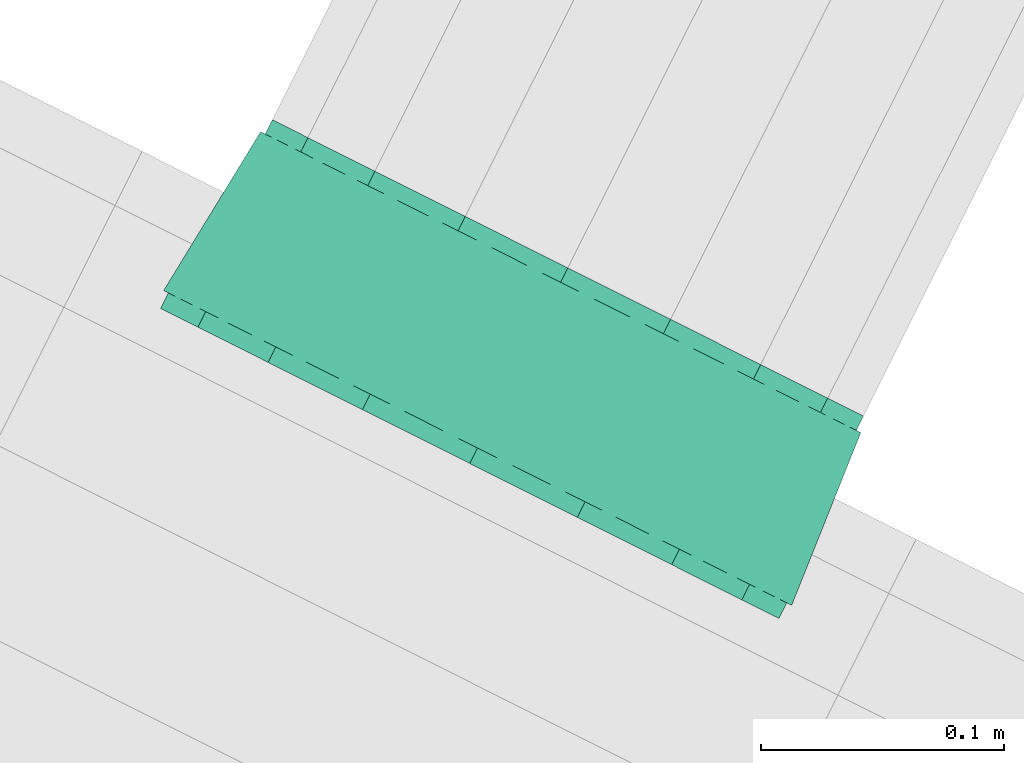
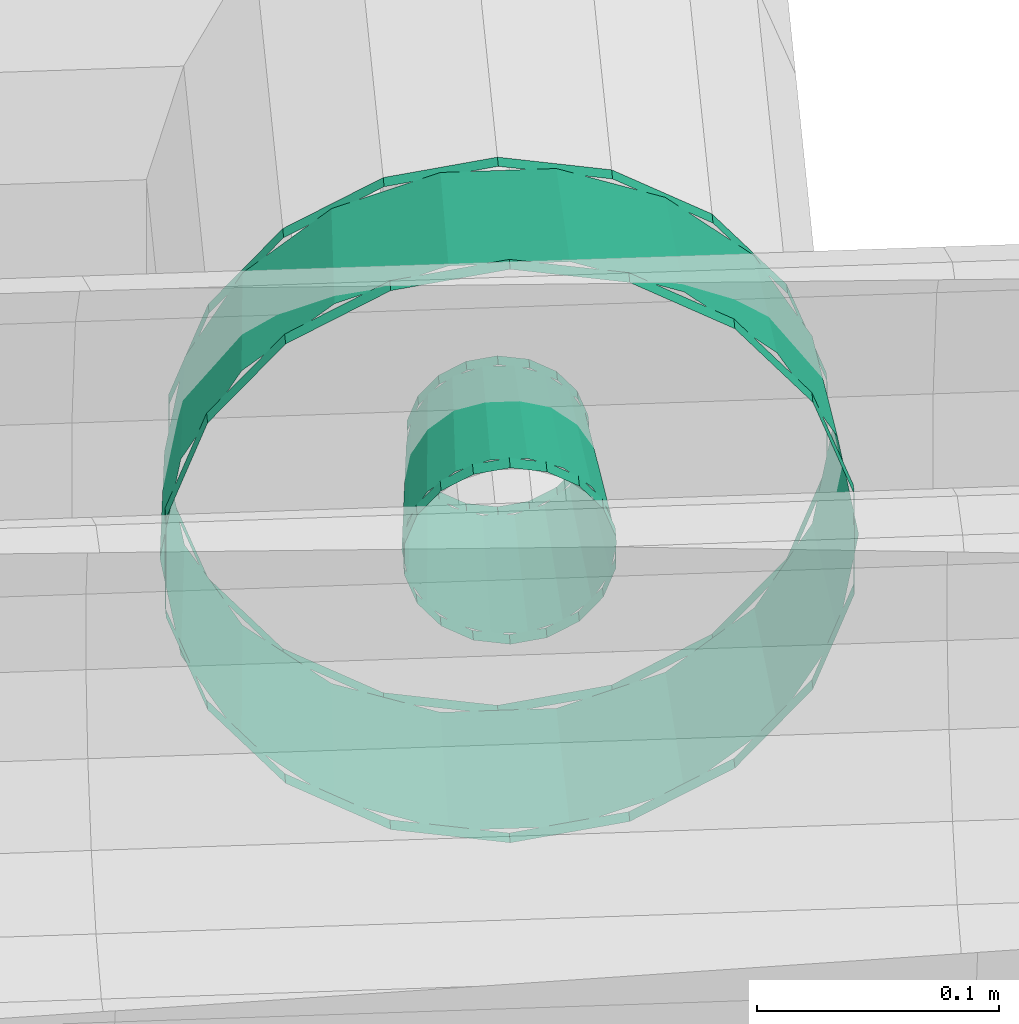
# One storey, part 25 of 152: 1 flow fitting.
"""IFC2X3 building model written with IfcOpenShell, lengths in metres."""

from ifc_helpers import new_model, si_unit, derived_unit, direction, frame, origin, place, context, subcontext, project, spatial, face_set, surface_model, source, transform, mapped, material, type_object, type_shapes, element, save


model = new_model("IFC2X3")

# Units and contexts
model_context = context("Model", 3, precision=5.2338327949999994e-05, world=origin(), true_north=direction((0.0, 1.0)))
body_context = subcontext(model_context, "Body", "Model", "MODEL_VIEW")
ifc_project = project(units=[si_unit("LENGTHUNIT", "METRE"), si_unit("AREAUNIT", "SQUARE_METRE"), si_unit("VOLUMEUNIT", "CUBIC_METRE"), si_unit("MASSUNIT", "GRAM", prefix="KILO"), si_unit("PLANEANGLEUNIT", "RADIAN"), derived_unit("THERMALTRANSMITTANCEUNIT", [(si_unit("MASSUNIT", "GRAM", prefix="KILO"), 1), (si_unit("THERMODYNAMICTEMPERATUREUNIT", "KELVIN"), -1), (si_unit("TIMEUNIT", "SECOND"), -3)])], contexts=[model_context])

# Site, building, storey
site_placement = place(None, frame((0.0, 0.0, 0.0), z_axis=(0.0, 0.0, 1.0), x_axis=(0.8939966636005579, -0.4480736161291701, 0.0)))
site = spatial("IfcSite", under=ifc_project, at=site_placement, Name="Default", CompositionType="ELEMENT")
building_placement = place(site_placement, origin())
building = spatial("IfcBuilding", under=site, at=building_placement, CompositionType="ELEMENT")
storey_placement = place(building_placement, frame((0.0, 0.0, 2.7499999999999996)))
storey = spatial("IfcBuildingStorey", under=building, at=storey_placement, Name="1. Obergeschoss", CompositionType="ELEMENT", Elevation=2.7499999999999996)

# Flow fitting
ifc_material = material(Name="IfcSurfaceStyle #9317")
distribution_element_type = type_object("IfcDistributionElementType", Name="Übergangsstück 260035:Übergangsstück 260035", material=ifc_material)
shared_shape = source(origin(), body_context, "Body", "SurfaceModel", [
    surface_model("IfcFaceBasedSurfaceModel", [(15.057242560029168, 6.008787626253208, 5.680090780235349), (15.072445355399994, 6.008787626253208, 5.677410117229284), (15.072445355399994, 6.0159372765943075, 5.677410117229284), (15.057242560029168, 6.0159372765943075, 5.680090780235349), (15.085814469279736, 6.008787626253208, 5.669691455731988), (15.085814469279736, 6.0159372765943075, 5.669691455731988), (15.095737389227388, 6.008787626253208, 5.65786578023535), (15.095737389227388, 6.0159372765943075, 5.65786578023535), (15.101017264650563, 6.008787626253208, 5.643359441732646), (15.101017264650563, 6.0159372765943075, 5.643359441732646), (15.101017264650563, 6.008787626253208, 5.627922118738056), (15.101017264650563, 6.0159372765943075, 5.627922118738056), (15.095737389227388, 6.008787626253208, 5.61341578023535), (15.095737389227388, 6.0159372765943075, 5.61341578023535), (15.085814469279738, 6.008787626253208, 5.601590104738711), (15.085814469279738, 6.0159372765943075, 5.601590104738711), (15.072445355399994, 6.008787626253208, 5.593871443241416), (15.072445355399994, 6.0159372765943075, 5.593871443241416), (15.057242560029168, 6.008787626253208, 5.59119078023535), (15.057242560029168, 6.0159372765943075, 5.59119078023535), (15.042039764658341, 6.008787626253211, 5.593871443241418), (15.042039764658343, 6.015937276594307, 5.593871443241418), (15.028670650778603, 6.008787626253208, 5.601590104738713), (15.028670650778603, 6.015937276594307, 5.601590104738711), (15.018747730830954, 6.008787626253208, 5.613415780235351), (15.018747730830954, 6.0159372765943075, 5.613415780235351), (15.013467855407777, 6.008787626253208, 5.627922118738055), (15.013467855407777, 6.0159372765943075, 5.627922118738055), (15.013467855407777, 6.008787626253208, 5.643359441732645), (15.013467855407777, 6.0159372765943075, 5.643359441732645), (15.018747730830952, 6.008787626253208, 5.657865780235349), (15.018747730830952, 6.0159372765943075, 5.657865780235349), (15.028670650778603, 6.008787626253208, 5.669691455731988), (15.028670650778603, 6.0159372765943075, 5.669691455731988), (15.042039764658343, 6.008787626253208, 5.677410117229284), (15.042039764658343, 6.0159372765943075, 5.677410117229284), (15.057242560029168, 6.008787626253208, 5.7800907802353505), (15.106647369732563, 6.008787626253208, 5.771379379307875), (15.106647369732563, 6.0159372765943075, 5.771379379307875), (15.057242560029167, 6.0159372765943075, 5.7800907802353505), (15.150093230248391, 6.008787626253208, 5.746295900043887), (15.150093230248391, 6.0159372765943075, 5.746295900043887), (15.182339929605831, 6.008787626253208, 5.707865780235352), (15.182339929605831, 6.0159372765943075, 5.707865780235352), (15.199498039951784, 6.008787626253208, 5.6607242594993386), (15.199498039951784, 6.0159372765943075, 5.6607242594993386), (15.199498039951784, 6.008787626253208, 5.610557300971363), (15.199498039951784, 6.0159372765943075, 5.610557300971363), (15.182339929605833, 6.008787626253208, 5.563415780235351), (15.182339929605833, 6.0159372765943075, 5.563415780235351), (15.150093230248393, 6.008787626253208, 5.524985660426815), (15.150093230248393, 6.0159372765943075, 5.524985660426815), (15.106647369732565, 6.008787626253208, 5.4999021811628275), (15.106647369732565, 6.0159372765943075, 5.4999021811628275), (15.057242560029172, 6.008787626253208, 5.491190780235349), (15.057242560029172, 6.0159372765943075, 5.491190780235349), (15.00783775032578, 6.008787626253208, 5.499902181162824), (15.00783775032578, 6.0159372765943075, 5.499902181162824), (14.96439188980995, 6.008787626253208, 5.524985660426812), (14.96439188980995, 6.0159372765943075, 5.524985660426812), (14.932145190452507, 6.008787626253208, 5.5634157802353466), (14.932145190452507, 6.0159372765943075, 5.5634157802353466), (14.914987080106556, 6.008787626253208, 5.61055730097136), (14.914987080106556, 6.0159372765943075, 5.61055730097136), (14.914987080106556, 6.008787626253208, 5.660724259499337), (14.914987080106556, 6.0159372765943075, 5.660724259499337), (14.932145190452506, 6.008787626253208, 5.70786578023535), (14.932145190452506, 6.0159372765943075, 5.70786578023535), (14.964391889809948, 6.008787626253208, 5.746295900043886), (14.964391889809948, 6.0159372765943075, 5.746295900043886), (15.007837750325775, 6.008787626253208, 5.771379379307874), (15.007837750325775, 6.0159372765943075, 5.771379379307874), (15.101692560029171, 6.0159372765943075, 5.63564078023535), (15.099011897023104, 6.0159372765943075, 5.620437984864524), (15.092997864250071, 6.0921726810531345, 5.622626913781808), (15.095292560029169, 6.0921726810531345, 5.635640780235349), (15.091293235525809, 6.0159372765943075, 5.607068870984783), (15.086390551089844, 6.0921726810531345, 5.611182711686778), (15.07946756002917, 6.0159372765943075, 5.597145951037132), (15.076267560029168, 6.0921726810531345, 5.602688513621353), (15.064961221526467, 6.0159372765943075, 5.591866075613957), (15.06384987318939, 6.0921726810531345, 5.598168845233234), (15.049523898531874, 6.0159372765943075, 5.591866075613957), (15.050635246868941, 6.0921726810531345, 5.5981688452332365), (15.03501756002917, 6.0159372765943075, 5.597145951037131), (15.038217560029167, 6.0921726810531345, 5.602688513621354), (15.02319188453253, 6.0159372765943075, 5.60706887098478), (15.028094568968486, 6.0921726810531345, 5.611182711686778), (15.015473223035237, 6.0159372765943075, 5.620437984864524), (15.021487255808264, 6.0921726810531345, 5.6226269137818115), (15.01279256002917, 6.0159372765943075, 5.635640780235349), (15.019192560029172, 6.0921726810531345, 5.635640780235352), (15.015473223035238, 6.0159372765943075, 5.650843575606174), (15.021487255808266, 6.0921726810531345, 5.648654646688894), (15.023191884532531, 6.0159372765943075, 5.664212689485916), (15.028094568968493, 6.0921726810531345, 5.660098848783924), (15.035017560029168, 6.0159372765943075, 5.674135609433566), (15.03821756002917, 6.0921726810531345, 5.668593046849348), (15.049523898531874, 6.0159372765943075, 5.679415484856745), (15.050635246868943, 6.0921726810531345, 5.673112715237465), (15.064961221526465, 6.0159372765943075, 5.679415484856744), (15.063849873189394, 6.0921726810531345, 5.6731127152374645), (15.07946756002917, 6.0159372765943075, 5.674135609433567), (15.076267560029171, 6.0921726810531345, 5.668593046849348), (15.09129323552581, 6.0159372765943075, 5.664212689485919), (15.086390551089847, 6.0921726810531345, 5.660098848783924), (15.0990118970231, 6.0159372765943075, 5.650843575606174), (15.092997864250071, 6.0921726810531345, 5.64865464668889), (15.057242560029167, 6.092172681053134, 5.673690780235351), (15.070256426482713, 6.092172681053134, 5.671396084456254), (15.070256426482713, 6.098787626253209, 5.671396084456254), (15.057242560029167, 6.098787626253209, 5.673690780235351), (15.08170062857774, 6.092172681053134, 5.664788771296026), (15.08170062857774, 6.098787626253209, 5.664788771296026), (15.090194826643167, 6.092172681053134, 5.65466578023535), (15.090194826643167, 6.098787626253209, 5.65466578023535), (15.094714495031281, 6.092172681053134, 5.642248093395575), (15.094714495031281, 6.098787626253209, 5.642248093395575), (15.094714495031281, 6.092172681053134, 5.629033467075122), (15.094714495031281, 6.098787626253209, 5.629033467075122), (15.090194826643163, 6.092172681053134, 5.616615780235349), (15.090194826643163, 6.098787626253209, 5.616615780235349), (15.081700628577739, 6.092172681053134, 5.606492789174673), (15.081700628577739, 6.098787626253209, 5.606492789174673), (15.070256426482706, 6.092172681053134, 5.599885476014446), (15.070256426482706, 6.098787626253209, 5.599885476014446), (15.057242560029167, 6.092172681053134, 5.5975907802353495), (15.057242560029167, 6.098787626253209, 5.5975907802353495), (15.044228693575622, 6.092172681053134, 5.599885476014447), (15.044228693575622, 6.098787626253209, 5.599885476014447), (15.032784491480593, 6.092172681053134, 5.606492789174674), (15.032784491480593, 6.098787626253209, 5.606492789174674), (15.024290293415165, 6.092172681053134, 5.616615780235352), (15.024290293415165, 6.098787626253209, 5.616615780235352), (15.019770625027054, 6.092172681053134, 5.629033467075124), (15.019770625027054, 6.098787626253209, 5.629033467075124), (15.019770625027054, 6.092172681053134, 5.64224809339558), (15.019770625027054, 6.098787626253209, 5.64224809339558), (15.02429029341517, 6.092172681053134, 5.654665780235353), (15.02429029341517, 6.098787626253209, 5.654665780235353), (15.032784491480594, 6.092172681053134, 5.664788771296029), (15.032784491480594, 6.098787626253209, 5.664788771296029), (15.044228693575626, 6.092172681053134, 5.671396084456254), (15.044228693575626, 6.098787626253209, 5.671396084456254), (15.20169256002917, 6.0159372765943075, 5.6356407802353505), (15.192981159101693, 6.0159372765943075, 5.586235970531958), (15.18696712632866, 6.0921726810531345, 5.588424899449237), (15.195292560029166, 6.0921726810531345, 5.635640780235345), (15.16789767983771, 6.0159372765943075, 5.54279011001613), (15.16299499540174, 6.0921726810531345, 5.54690395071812), (15.129467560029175, 6.0159372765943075, 5.510543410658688), (15.126267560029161, 6.0921726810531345, 5.516085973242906), (15.08232603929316, 6.0159372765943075, 5.493385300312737), (15.081214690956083, 6.0921726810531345, 5.499688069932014), (15.032159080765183, 6.0159372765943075, 5.4933853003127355), (15.03327042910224, 6.0921726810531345, 5.499688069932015), (14.985017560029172, 6.0159372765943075, 5.510543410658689), (14.988217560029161, 6.0921726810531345, 5.5160859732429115), (14.946587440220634, 6.0159372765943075, 5.542790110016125), (14.951490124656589, 6.0921726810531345, 5.546903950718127), (14.921503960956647, 6.0159372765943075, 5.586235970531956), (14.927517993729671, 6.0921726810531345, 5.588424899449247), (14.912792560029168, 6.0159372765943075, 5.635640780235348), (14.919192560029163, 6.0921726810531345, 5.635640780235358), (14.921503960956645, 6.0159372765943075, 5.685045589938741), (14.927517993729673, 6.0921726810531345, 5.682856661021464), (14.94658744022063, 6.0159372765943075, 5.728491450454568), (14.951490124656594, 6.0921726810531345, 5.724377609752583), (14.985017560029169, 6.0159372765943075, 5.7607381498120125), (14.988217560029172, 6.0921726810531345, 5.755195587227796), (15.032159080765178, 6.0159372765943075, 5.777896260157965), (15.03327042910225, 6.0921726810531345, 5.771593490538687), (15.082326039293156, 6.0159372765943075, 5.777896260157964), (15.081214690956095, 6.0921726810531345, 5.7715934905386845), (15.129467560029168, 6.0159372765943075, 5.760738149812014), (15.126267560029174, 6.0921726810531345, 5.755195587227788), (15.167897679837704, 6.0159372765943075, 5.728491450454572), (15.162994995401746, 6.0921726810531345, 5.724377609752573), (15.192981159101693, 6.0159372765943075, 5.685045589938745), (15.186967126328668, 6.0921726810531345, 5.682856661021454), (15.057242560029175, 6.092172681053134, 5.773690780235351), (15.10445844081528, 6.092172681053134, 5.7653653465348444), (15.10445844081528, 6.098787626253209, 5.7653653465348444), (15.057242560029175, 6.098787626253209, 5.773690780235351), (15.145979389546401, 6.092172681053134, 5.741393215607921), (15.145979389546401, 6.098787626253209, 5.741393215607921), (15.176797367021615, 6.092172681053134, 5.704665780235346), (15.176797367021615, 6.098787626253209, 5.704665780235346), (15.193195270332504, 6.092172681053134, 5.659612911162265), (15.193195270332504, 6.098787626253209, 5.659612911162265), (15.1931952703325, 6.092172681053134, 5.611668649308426), (15.1931952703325, 6.098787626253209, 5.611668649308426), (15.176797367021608, 6.092172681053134, 5.566615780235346), (15.176797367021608, 6.098787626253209, 5.566615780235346), (15.14597938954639, 6.092172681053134, 5.529888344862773), (15.14597938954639, 6.098787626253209, 5.529888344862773), (15.104458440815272, 6.092172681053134, 5.505916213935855), (15.104458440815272, 6.098787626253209, 5.505916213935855), (15.057242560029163, 6.092172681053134, 5.497590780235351), (15.057242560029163, 6.098787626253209, 5.497590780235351), (15.010026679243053, 6.092172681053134, 5.5059162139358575), (15.010026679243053, 6.098787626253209, 5.5059162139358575), (14.968505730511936, 6.092172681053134, 5.52988834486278), (14.968505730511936, 6.098787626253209, 5.52988834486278), (14.937687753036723, 6.092172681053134, 5.566615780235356), (14.937687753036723, 6.098787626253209, 5.566615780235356), (14.921289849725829, 6.092172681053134, 5.611668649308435), (14.921289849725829, 6.098787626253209, 5.611668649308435), (14.92128984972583, 6.092172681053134, 5.659612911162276), (14.92128984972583, 6.098787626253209, 5.659612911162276), (14.93768775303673, 6.092172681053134, 5.704665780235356), (14.93768775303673, 6.098787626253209, 5.704665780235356), (14.968505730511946, 6.092172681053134, 5.741393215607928), (14.968505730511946, 6.098787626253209, 5.741393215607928), (15.010026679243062, 6.092172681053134, 5.765365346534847), (15.010026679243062, 6.098787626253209, 5.765365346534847)], [face_set([[[0, 1, 2, 3]], [[1, 4, 5, 2]], [[4, 6, 7, 5]], [[6, 8, 9, 7]], [[8, 10, 11, 9]], [[10, 12, 13, 11]], [[12, 14, 15, 13]], [[14, 16, 17, 15]], [[16, 18, 19, 17]], [[18, 20, 21, 19]], [[20, 22, 23, 21]], [[22, 24, 25, 23]], [[24, 26, 27, 25]], [[26, 28, 29, 27]], [[28, 30, 31, 29]], [[30, 32, 33, 31]], [[32, 34, 35, 33]], [[34, 0, 3, 35]], [[36, 37, 38, 39]], [[37, 40, 41, 38]], [[40, 42, 43, 41]], [[42, 44, 45, 43]], [[44, 46, 47, 45]], [[46, 48, 49, 47]], [[48, 50, 51, 49]], [[50, 52, 53, 51]], [[52, 54, 55, 53]], [[54, 56, 57, 55]], [[56, 58, 59, 57]], [[58, 60, 61, 59]], [[60, 62, 63, 61]], [[62, 64, 65, 63]], [[64, 66, 67, 65]], [[66, 68, 69, 67]], [[68, 70, 71, 69]], [[70, 36, 39, 71]], [[72, 73, 74, 75]], [[73, 76, 77, 74]], [[76, 78, 79, 77]], [[78, 80, 81, 79]], [[80, 82, 83, 81]], [[82, 84, 85, 83]], [[84, 86, 87, 85]], [[86, 88, 89, 87]], [[88, 90, 91, 89]], [[90, 92, 93, 91]], [[92, 94, 95, 93]], [[94, 96, 97, 95]], [[96, 98, 99, 97]], [[98, 100, 101, 99]], [[100, 102, 103, 101]], [[102, 104, 105, 103]], [[104, 106, 107, 105]], [[106, 72, 75, 107]], [[108, 109, 110, 111]], [[109, 112, 113, 110]], [[112, 114, 115, 113]], [[114, 116, 117, 115]], [[116, 118, 119, 117]], [[118, 120, 121, 119]], [[120, 122, 123, 121]], [[122, 124, 125, 123]], [[124, 126, 127, 125]], [[126, 128, 129, 127]], [[128, 130, 131, 129]], [[130, 132, 133, 131]], [[132, 134, 135, 133]], [[134, 136, 137, 135]], [[136, 138, 139, 137]], [[138, 140, 141, 139]], [[140, 142, 143, 141]], [[142, 108, 111, 143]], [[144, 145, 146, 147]], [[145, 148, 149, 146]], [[148, 150, 151, 149]], [[150, 152, 153, 151]], [[152, 154, 155, 153]], [[154, 156, 157, 155]], [[156, 158, 159, 157]], [[158, 160, 161, 159]], [[160, 162, 163, 161]], [[162, 164, 165, 163]], [[164, 166, 167, 165]], [[166, 168, 169, 167]], [[168, 170, 171, 169]], [[170, 172, 173, 171]], [[172, 174, 175, 173]], [[174, 176, 177, 175]], [[176, 178, 179, 177]], [[178, 144, 147, 179]], [[180, 181, 182, 183]], [[181, 184, 185, 182]], [[184, 186, 187, 185]], [[186, 188, 189, 187]], [[188, 190, 191, 189]], [[190, 192, 193, 191]], [[192, 194, 195, 193]], [[194, 196, 197, 195]], [[196, 198, 199, 197]], [[198, 200, 201, 199]], [[200, 202, 203, 201]], [[202, 204, 205, 203]], [[204, 206, 207, 205]], [[206, 208, 209, 207]], [[208, 210, 211, 209]], [[210, 212, 213, 211]], [[212, 214, 215, 213]], [[214, 180, 183, 215]]])]),
])
type_shapes(distribution_element_type, [shared_shape])
flow_fitting_placement = place(storey_placement, frame((0.0, 0.0, -2.7499999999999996)))
element("IfcFlowFitting", 1, at=flow_fitting_placement, inside=storey, type_object=distribution_element_type, material=ifc_material, Name="Übergangsstück", ObjectType="Übergangsstück", context=body_context, shape_type="MappedRepresentation", body=[
    mapped(shared_shape, transform((0.0, 0.0, 0.0), scale=1.0)),
])

save(model, "model.ifc")
